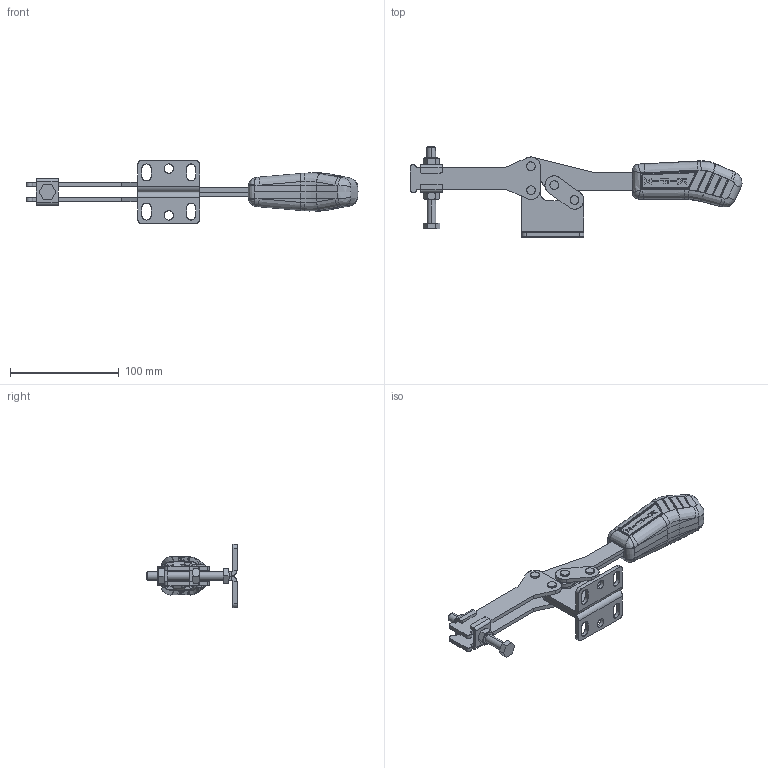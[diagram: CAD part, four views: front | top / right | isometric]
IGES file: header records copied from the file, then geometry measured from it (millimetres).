
Start section: SolidWorks IGES file using analytic representation for surfaces
Global section: file name: C:\Projetos\Grampos\KF-533\KF-533 D\KF-533 D.IGS; native system: SolidWorks 2013; preprocessor: SolidWorks 2013; author: Ricardo; date: 140818.135710; units: millimetre
Bounding box: 304.78 x 82.75 x 58 mm (x, y, z)
Surface area: 76632.4 mm2 (no closed solid volume)
Topology: 0 solids, 0 shells, 814 faces, 9592 edges, 9561 vertices
Faces by surface type: bspline 436, revolution 378
